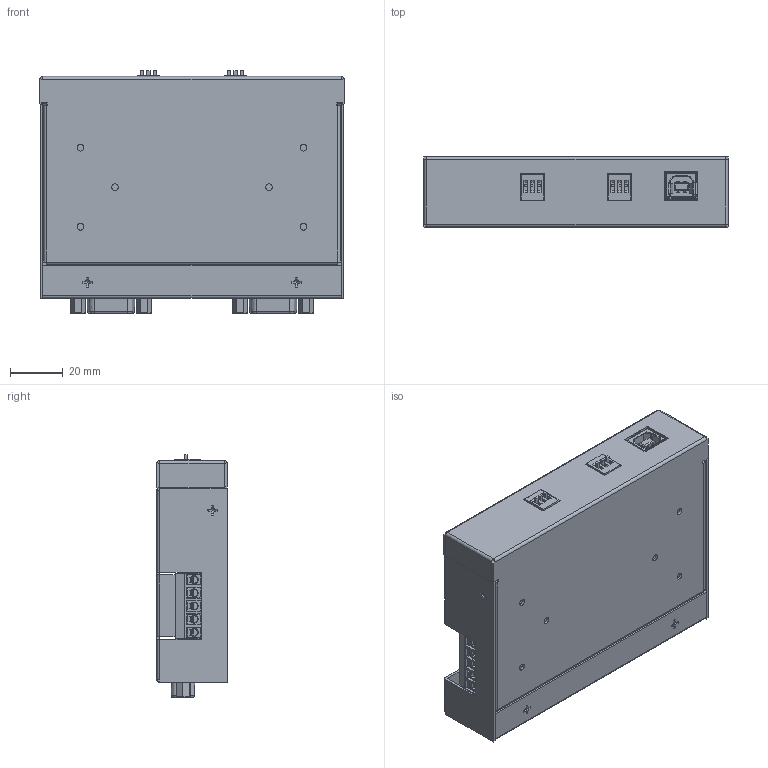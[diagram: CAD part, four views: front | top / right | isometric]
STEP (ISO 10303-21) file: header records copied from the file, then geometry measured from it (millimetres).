
FILE_DESCRIPTION(/* description */ (''),/* implementation_level */ '2;1');
FILE_NAME(/* name */ '/Users/leo/Desktop/Desktop - Leonardo’s MacBook Air/Coolgear May/USB-2COMi-M/USB-2COMi-M Model3D LPV1.step',/* time_stamp */ '2021-07-29T14:42:07-04:00',/* author */ (''),/* organization */ (''),/* preprocessor_version */ 'ST-DEVELOPER v18.1',/* originating_system */ 'Autodesk Translation Framework v10.9.0.1377',/* authorisation */ '');
FILE_SCHEMA (('AUTOMOTIVE_DESIGN { 1 0 10303 214 3 1 1 }'));
Products named in the file (1): FusionComponent
Bounding box: 115.3 x 26.63 x 91.94 mm (x, y, z)
Volume: 57581.3 mm3; surface area: 95604 mm2
Topology: 3 solids, 4 shells, 2754 faces, 7419 edges, 4745 vertices
Faces by surface type: plane 1828, cylinder 657, torus 100, bspline 68, cone 54, sphere 47
Full cylindrical faces by diameter (mm): 1 x48, 1.5 x20, 2.323 x15, 2.35 x12, 2.529 x6, 2.6 x4, 2.8 x14, 2.998 x5, 3 x29, 3.24 x5, 3.3 x10, 3.5 x13, 3.643 x5, 5.4 x2
Entity records: 101421 total; most frequent: CARTESIAN_POINT 32144, ORIENTED_EDGE 14782, DIRECTION 13743, EDGE_CURVE 7391, LINE 5479, VECTOR 5479, VERTEX_POINT 4745, AXIS2_PLACEMENT_3D 4132
